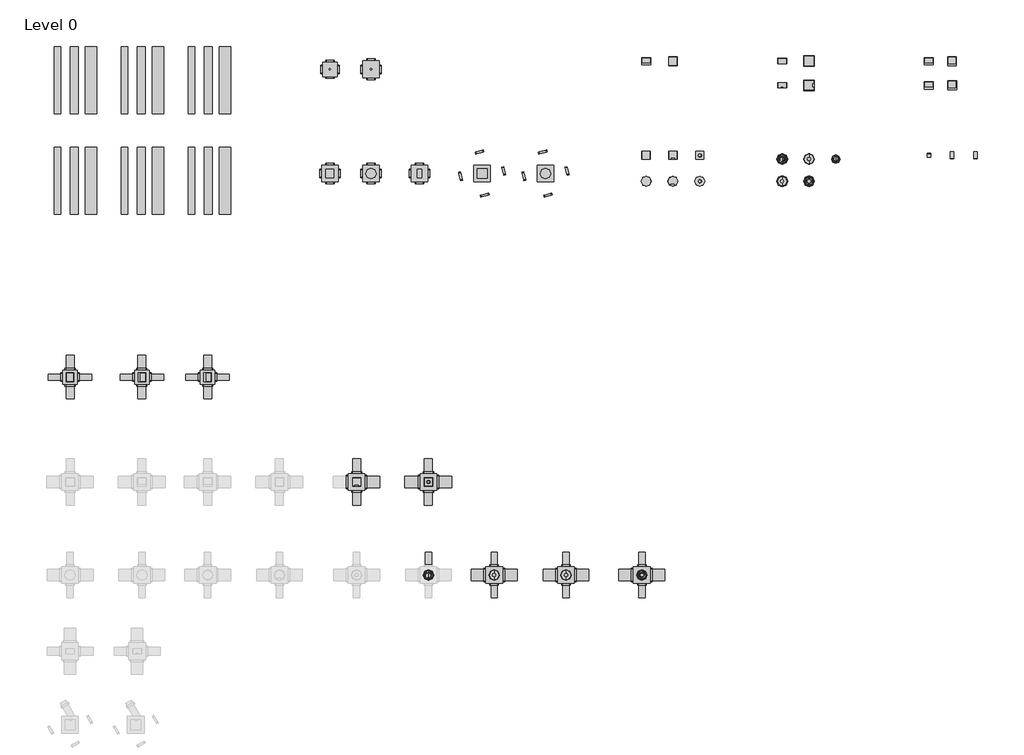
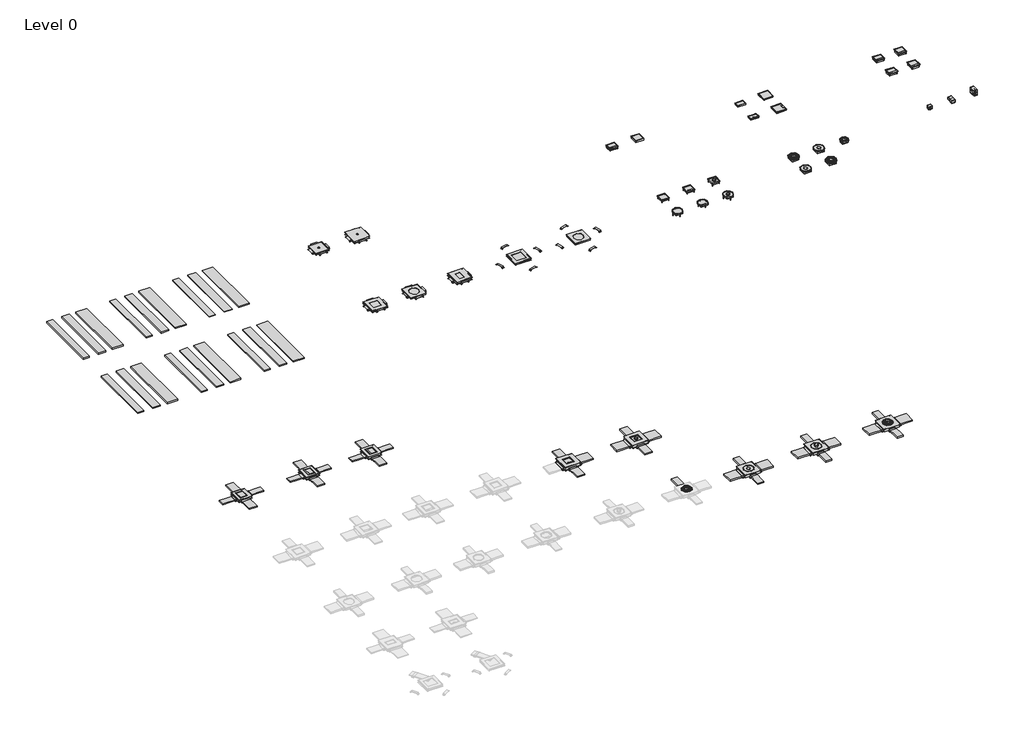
# One storey, part 2 of 2: 50 cable carrier segments, 34 proxies, 15 cable carrier fittings.
"""IFC4 building model written with IfcOpenShell, lengths in millimetres."""

from ifc_helpers import new_model, si_unit, frame, origin, place, context, project, spatial, polyline, outline, extrude, transform, mapped, element, save
from components import electrical_fixtures_1398e5e1, electrical_fixtures_dd5e6c87, electrical_fixtures_dd45cec8, electrical_fixtures_62458b07, electrical_fixtures_8427cab8, electrical_fixtures_e29cb0aa, electrical_fixtures_c710c140, electrical_fixtures_057aeb0d, electrical_fixtures_bc096a6a, electrical_fixtures_bc675c06, electrical_fixtures_8ed366d0, color_deep_black_fa90bbad, color_deep_black_3e0b7094, color_deep_black_f01a6ed9, color_deep_black_c4cdae59, color_deep_black_919f03ab, color_deep_black_c19cb628, color_deep_black_09ea9520, color_iron_grey_b0ae90e2, color_iron_grey_872dce2f, stainless_steel_cassette_q12_bl_outer_height_28mm_38aa1d54, stainless_steel_cassette_q12_le_outer_height_28mm_4387def9, stainless_steel_cassette_q12_tm_outer_height_28mm_6e70061e, stainless_steel_cassette_r12_bl_outer_height_28mm_04f2a1df, stainless_steel_cassette_r12_le_outer_height_28mm_2c233eef, stainless_steel_cassette_r12_tm_outer_height_28mm_5556ff63, cable_carrier_fitting_5f74ec3e, cable_carrier_fitting_95a8737b, cable_carrier_fitting_8ec82d7f, cable_carrier_fitting_5dca8683, universal_junction_box_with_bottom_plate_size_2_fdcef50c, universal_junction_box_with_bottom_plate_size_2_2fa8826b, universal_junction_box_with_bottom_plate_size_2_3eebd924, universal_junction_box_with_bottom_plate_size_2_4473feed, universal_junction_box_with_bottom_plate_size_3_bfdb4a76, universal_junction_box_with_bottom_plate_size_3_fc0b7f47, universal_junction_box_with_bottom_plate_size_3_6bbe9316, universal_junction_box_with_sheet_metal_casing_size_3_51affc23

model = new_model("IFC4")

# Units and contexts
model_context = context("Model", 3, world=origin())
ifc_project = project(units=[si_unit("LENGTHUNIT", "METRE", prefix="MILLI")], contexts=[model_context])

# Site, building, storey
site = spatial("IfcSite", under=ifc_project)
building = spatial("IfcBuilding", under=site)
storey = spatial("IfcBuildingStorey", under=building, Name="Level 0", Elevation=0.0)

# Proxies
placement = place(None, origin())
electrical_fixtures_shape = electrical_fixtures_1398e5e1(model_context)
element("IfcBuildingElementProxy", 1, Name="Electrical_Installation_Hager_VE-EE_VANR_3mm_Service-unit-for-wet-cleaned-floors-with-tube-cable-outlete-made-of-polyamide : Service unit R12 w set HB wet PA-T Al 3mm", ObjectType="Electrical_Installation_Hager_VE-EE_VANR_3mm_Service-unit-for-wet-cleaned-floors-with-tube-cable-outlete-made-of-polyamide : Service unit R12 w set HB wet PA-T Al 3mm", at=placement, inside=storey, context=model_context, shape_type="MappedRepresentation", body=[
    mapped(electrical_fixtures_shape, transform((6337.4796232, -4575.9376679, 74.0), x_axis=(1.0, 0.0, 0.0), y_axis=(0.0, 1.0, 0.0), z_axis=(0.0, 0.0, 1.0))),
])
electrical_fixtures_2_shape = electrical_fixtures_dd5e6c87(model_context)
element("IfcBuildingElementProxy", 2, Name="Electrical_Installation_Hager_VE-EE_VANR-Service-unit-for-wet-cleaned-floors-with-tube-cable-outlete-made-of-polyamide : Service unit R12 w set HB wet PA-Tub Al R", ObjectType="Electrical_Installation_Hager_VE-EE_VANR-Service-unit-for-wet-cleaned-floors-with-tube-cable-outlete-made-of-polyamide : Service unit R12 w set HB wet PA-Tub Al R", at=placement, inside=storey, context=model_context, shape_type="MappedRepresentation", body=[
    mapped(electrical_fixtures_2_shape, transform((8597.4796232, -4575.9376679, 74.0), x_axis=(1.0, 0.0, 0.0), y_axis=(0.0, 1.0, 0.0), z_axis=(0.0, 0.0, 1.0))),
])
electrical_fixtures_3_shape = electrical_fixtures_dd45cec8(model_context)
element("IfcBuildingElementProxy", 3, Name="Electrical_Installation_Hager_VE-EE_Pedestal-box-8 : GB pedestal box 8 inst. fields iron gray", ObjectType="Electrical_Installation_Hager_VE-EE_Pedestal-box-8 : GB pedestal box 8 inst. fields iron gray", at=placement, inside=storey, context=model_context, shape_type="MappedRepresentation", body=[
    mapped(electrical_fixtures_3_shape, transform((18546.8780036, 7933.6165958, 0.0), x_axis=(1.0, 0.0, 0.0), y_axis=(0.0, 1.0, 0.0), z_axis=(0.0, 0.0, 1.0))),
])
electrical_fixtures_4_shape = electrical_fixtures_62458b07(model_context)
element("IfcBuildingElementProxy", 4, Name="Electrical_Installation_Hager_VE-EE_Service-unit-VE09-made-of-stainless-steel : Electrical_Installation_Hager_VE-EE_Service-unit-VE09-made-of-stainless-steel", ObjectType="Electrical_Installation_Hager_VE-EE_Service-unit-VE09-made-of-stainless-steel : Electrical_Installation_Hager_VE-EE_Service-unit-VE09-made-of-stainless-steel", at=placement, inside=storey, context=model_context, shape_type="MappedRepresentation", body=[
    mapped(electrical_fixtures_4_shape, transform((17153.0835072, 10020.8738117, 0.0), x_axis=(1.0, 0.0, 0.0), y_axis=(0.0, 1.0, 0.0), z_axis=(0.0, 0.0, 1.0))),
])
electrical_fixtures_5_shape = electrical_fixtures_8427cab8(model_context)
element("IfcBuildingElementProxy", 5, Name="Electrical_Installation_Hager_VE-EE_Service-unit-VQ12-made-of-stainless-steel : Electrical_Installation_Hager_VE-EE_Service-unit-VQ12-made-of-stainless-steel", ObjectType="Electrical_Installation_Hager_VE-EE_Service-unit-VQ12-made-of-stainless-steel : Electrical_Installation_Hager_VE-EE_Service-unit-VQ12-made-of-stainless-steel", at=placement, inside=storey, context=model_context, shape_type="MappedRepresentation", body=[
    mapped(electrical_fixtures_5_shape, transform((17844.8100497, 10020.8738117, 0.0), x_axis=(1.0, 0.0, 0.0), y_axis=(0.0, 1.0, 0.0), z_axis=(0.0, 0.0, 1.0))),
])
electrical_fixtures_6_shape = electrical_fixtures_e29cb0aa(model_context)
element("IfcBuildingElementProxy", 6, Name="Electrical_Installation_Hager_VE-EE_VANR_3mm_Service-unit-for-wet-cleaned-floors-for-the-installation-tube-cable-outlet-made-of-aluminium : Service unit R12 w set HB wet Al-Tub 3mm", ObjectType="Electrical_Installation_Hager_VE-EE_VANR_3mm_Service-unit-for-wet-cleaned-floors-for-the-installation-tube-cable-outlet-made-of-aluminium : Service unit R12 w set HB wet Al-Tub 3mm", at=placement, inside=storey, context=model_context, shape_type="MappedRepresentation", body=[
    mapped(electrical_fixtures_6_shape, transform((4197.4796232, -4575.9376679, 74.0), x_axis=(1.0, 0.0, 0.0), y_axis=(0.0, 1.0, 0.0), z_axis=(0.0, 0.0, 1.0))),
])
element("IfcBuildingElementProxy", 7, Name="Electrical_Installation_Hager_VE-EE_VANR_3mm_Service-unit-for-wet-cleaned-floors-for-the-installation-tube-cable-outlet-made-of-aluminium : Service unit R12 w set HB wet Al-Tub 3mm", ObjectType="Electrical_Installation_Hager_VE-EE_VANR_3mm_Service-unit-for-wet-cleaned-floors-for-the-installation-tube-cable-outlet-made-of-aluminium : Service unit R12 w set HB wet Al-Tub 3mm", at=placement, inside=storey, context=model_context, shape_type="MappedRepresentation", body=[
    mapped(electrical_fixtures_6_shape, transform((12780.7945288, 7160.4699345, 0.0), x_axis=(1.0, 0.0, 0.0), y_axis=(0.0, 1.0, 0.0), z_axis=(0.0, 0.0, 1.0))),
])
element("IfcBuildingElementProxy", 8, Name="Electrical_Installation_Hager_VE-EE_VANR_3mm_Service-unit-for-wet-cleaned-floors-with-tube-cable-outlete-made-of-polyamide : Service unit R12 w set HB wet PA-T Al 3mm", ObjectType="Electrical_Installation_Hager_VE-EE_VANR_3mm_Service-unit-for-wet-cleaned-floors-with-tube-cable-outlete-made-of-polyamide : Service unit R12 w set HB wet PA-T Al 3mm", at=placement, inside=storey, context=model_context, shape_type="MappedRepresentation", body=[
    mapped(electrical_fixtures_6_shape, transform((13580.7945288, 7823.1081778, 0.0), x_axis=(1.0, 0.0, 0.0), y_axis=(0.0, 1.0, 0.0), z_axis=(0.0, 0.0, 1.0))),
])
electrical_fixtures_7_shape = electrical_fixtures_c710c140(model_context)
element("IfcBuildingElementProxy", 9, Name="Electrical_Installation_Hager_VE-EE_VANR-Service-unit-for-wet-cleaned-floors-for-the-installation-of-tube-cable-outlets-made-of-aluminium : Service unit R12 w set HB wet Al-Tub R deep black", ObjectType="Electrical_Installation_Hager_VE-EE_VANR-Service-unit-for-wet-cleaned-floors-for-the-installation-of-tube-cable-outlets-made-of-aluminium : Service unit R12 w set HB wet Al-Tub R deep black", at=placement, inside=storey, context=model_context, shape_type="MappedRepresentation", body=[
    mapped(electrical_fixtures_7_shape, transform((14380.7945288, 7823.1081778, 0.0), x_axis=(1.0, 0.0, 0.0), y_axis=(0.0, 1.0, 0.0), z_axis=(0.0, 0.0, 1.0))),
])
electrical_fixtures_8_shape = electrical_fixtures_057aeb0d(model_context)
element("IfcBuildingElementProxy", 10, Name="Electrical_Installation_Hager_VE-EE_VANR-Service-unit-for-wet-cleaned-floors-for-the-installation-tube-cable-outlet-made-of-aluminium : Service unit R12 w set HB wet Al-Tub R", ObjectType="Electrical_Installation_Hager_VE-EE_VANR-Service-unit-for-wet-cleaned-floors-for-the-installation-tube-cable-outlet-made-of-aluminium : Service unit R12 w set HB wet Al-Tub R", at=placement, inside=storey, context=model_context, shape_type="MappedRepresentation", body=[
    mapped(electrical_fixtures_8_shape, transform((12780.7945288, 7823.1081778, 0.0), x_axis=(1.0, 0.0, 0.0), y_axis=(0.0, 1.0, 0.0), z_axis=(0.0, 0.0, 1.0))),
])
element("IfcBuildingElementProxy", 11, Name="Electrical_Installation_Hager_VE-EE_VANR-Service-unit-for-wet-cleaned-floors-for-the-installation-tube-cable-outlet-made-of-aluminium : Service unit R12 w set HB wet Al-Tub R", ObjectType="Electrical_Installation_Hager_VE-EE_VANR-Service-unit-for-wet-cleaned-floors-for-the-installation-tube-cable-outlet-made-of-aluminium : Service unit R12 w set HB wet Al-Tub R", at=placement, inside=storey, context=model_context, shape_type="MappedRepresentation", body=[
    mapped(electrical_fixtures_8_shape, transform((2237.4796232, -4575.9376679, 74.0), x_axis=(1.0, 0.0, 0.0), y_axis=(0.0, 1.0, 0.0), z_axis=(0.0, 0.0, 1.0))),
])
electrical_fixtures_9_shape = electrical_fixtures_bc096a6a(model_context)
element("IfcBuildingElementProxy", 12, Name="Electrical_Installation_Hager_VE-EE_VANR-Service-unit-for-wet-cleaned-floors-with-tube-cable-outlete-made-of-polyamide : Service unit R12 w set HB wet PA-Tub Al R", ObjectType="Electrical_Installation_Hager_VE-EE_VANR-Service-unit-for-wet-cleaned-floors-with-tube-cable-outlete-made-of-polyamide : Service unit R12 w set HB wet PA-Tub Al R", at=placement, inside=storey, context=model_context, shape_type="MappedRepresentation", body=[
    mapped(electrical_fixtures_9_shape, transform((13580.7945288, 7160.4699345, 0.0), x_axis=(1.0, 0.0, 0.0), y_axis=(0.0, 1.0, 0.0), z_axis=(0.0, 0.0, 1.0))),
])
electrical_fixtures_10_shape = electrical_fixtures_bc675c06(model_context)
element("IfcBuildingElementProxy", 13, Name="Electrical_Installation_Hager_VE-EE_Pedestal-box-2 : GB pedestal box 2 inst. fields iron gray", ObjectType="Electrical_Installation_Hager_VE-EE_Pedestal-box-2 : GB pedestal box 2 inst. fields iron gray", at=placement, inside=storey, context=model_context, shape_type="MappedRepresentation", body=[
    mapped(electrical_fixtures_10_shape, transform((17153.0835072, 7933.6165958, 0.0), x_axis=(1.0, 0.0, 0.0), y_axis=(0.0, 1.0, 0.0), z_axis=(0.0, 0.0, 1.0))),
])
electrical_fixtures_11_shape = electrical_fixtures_8ed366d0(model_context)
element("IfcBuildingElementProxy", 14, Name="Electrical_Installation_Hager_VE-EE_Pedestal-box-4 : GB pedestal box 4 inst. fields iron gray", ObjectType="Electrical_Installation_Hager_VE-EE_Pedestal-box-4 : GB pedestal box 4 inst. fields iron gray", at=placement, inside=storey, context=model_context, shape_type="MappedRepresentation", body=[
    mapped(electrical_fixtures_11_shape, transform((17844.8100497, 7933.6165958, 0.0), x_axis=(1.0, 0.0, 0.0), y_axis=(0.0, 1.0, 0.0), z_axis=(0.0, 0.0, 1.0))),
])
element("IfcBuildingElementProxy", 15, Name="Electrical_Installation_Hager_VE-EE_Service-unit-VE09-made-of-stainless-steel : Electrical_Installation_Hager_VE-EE_Service-unit-VE09-made-of-stainless-steel", ObjectType="Electrical_Installation_Hager_VE-EE_Service-unit-VE09-made-of-stainless-steel : Electrical_Installation_Hager_VE-EE_Service-unit-VE09-made-of-stainless-steel", at=placement, inside=storey, context=model_context, shape_type="MappedRepresentation", body=[
    mapped(electrical_fixtures_4_shape, transform((-4342.5203768, 1319.6816929, 78.0), x_axis=(0.0, -1.0, 0.0), y_axis=(1.0, 0.0, 0.0), z_axis=(0.0, 0.0, 1.0))),
])
color_deep_black_shape = color_deep_black_fa90bbad(model_context)
element("IfcBuildingElementProxy", 16, Name="Electrical_Installation_Hager_VE-EE_Service-Unit-VQ12 : Color Deep Black", ObjectType="Electrical_Installation_Hager_VE-EE_Service-Unit-VQ12 : Color Deep Black", at=placement, inside=storey, context=model_context, shape_type="MappedRepresentation", body=[
    mapped(color_deep_black_shape, transform((17844.8100497, 10739.4319731, 0.0), x_axis=(1.0, 0.0, 0.0), y_axis=(0.0, 1.0, 0.0), z_axis=(0.0, 0.0, 1.0))),
])
color_deep_black_2_shape = color_deep_black_3e0b7094(model_context)
element("IfcBuildingElementProxy", 17, Name="Electrical_Installation_Hager_VE-EE_Cover-BDQ08 : Color Deep Black", ObjectType="Electrical_Installation_Hager_VE-EE_Cover-BDQ08 : Color Deep Black", at=placement, inside=storey, context=model_context, shape_type="MappedRepresentation", body=[
    mapped(color_deep_black_2_shape, transform((13580.7945288, 10739.4319731, 0.0), x_axis=(1.0, 0.0, 0.0), y_axis=(0.0, 1.0, 0.0), z_axis=(0.0, 0.0, 1.0))),
])
color_deep_black_3_shape = color_deep_black_f01a6ed9(model_context)
element("IfcBuildingElementProxy", 18, Name="Electrical_Installation_Hager_VE-EE_Cover-KDQ08 : Color Deep Black", ObjectType="Electrical_Installation_Hager_VE-EE_Cover-KDQ08 : Color Deep Black", at=placement, inside=storey, context=model_context, shape_type="MappedRepresentation", body=[
    mapped(color_deep_black_3_shape, transform((13580.7945288, 10020.8738117, 0.0), x_axis=(1.0, 0.0, 0.0), y_axis=(0.0, 1.0, 0.0), z_axis=(0.0, 0.0, 1.0))),
])
color_deep_black_4_shape = color_deep_black_c4cdae59(model_context)
element("IfcBuildingElementProxy", 19, Name="Electrical_Installation_Hager_VE-EE_Cover-BDE04 : Color Deep Black", ObjectType="Electrical_Installation_Hager_VE-EE_Cover-BDE04 : Color Deep Black", at=placement, inside=storey, context=model_context, shape_type="MappedRepresentation", body=[
    mapped(color_deep_black_4_shape, transform((12780.7945288, 10739.4319731, 0.0), x_axis=(1.0, 0.0, 0.0), y_axis=(0.0, 1.0, 0.0), z_axis=(0.0, 0.0, 1.0))),
])
color_deep_black_5_shape = color_deep_black_919f03ab(model_context)
element("IfcBuildingElementProxy", 20, Name="Electrical_Installation_Hager_VE-EE_Cover-KDE04 : Color Deep Black", ObjectType="Electrical_Installation_Hager_VE-EE_Cover-KDE04 : Color Deep Black", at=placement, inside=storey, context=model_context, shape_type="MappedRepresentation", body=[
    mapped(color_deep_black_5_shape, transform((12780.7945288, 10020.8738117, 0.0), x_axis=(1.0, 0.0, 0.0), y_axis=(0.0, 1.0, 0.0), z_axis=(0.0, 0.0, 1.0))),
])
color_deep_black_6_shape = color_deep_black_c19cb628(model_context)
element("IfcBuildingElementProxy", 21, Name="Electrical_Installation_Hager_VE-EE_Cover-VDQ12 : Color Deep Black", ObjectType="Electrical_Installation_Hager_VE-EE_Cover-VDQ12 : Color Deep Black", at=placement, inside=storey, context=model_context, shape_type="MappedRepresentation", body=[
    mapped(color_deep_black_6_shape, transform((9524.6249215, 10739.4319731, 0.0), x_axis=(1.0, 0.0, 0.0), y_axis=(0.0, 1.0, 0.0), z_axis=(0.0, 0.0, 1.0))),
])
color_deep_black_7_shape = color_deep_black_09ea9520(model_context)
element("IfcBuildingElementProxy", 22, Name="Electrical_Installation_Hager_VE-EE_Service-unit-VE09 : Color Deep Black", ObjectType="Electrical_Installation_Hager_VE-EE_Service-unit-VE09 : Color Deep Black", at=placement, inside=storey, context=model_context, shape_type="MappedRepresentation", body=[
    mapped(color_deep_black_7_shape, transform((8724.6249215, 10739.4319731, 0.0), x_axis=(1.0, 0.0, 0.0), y_axis=(0.0, 1.0, 0.0), z_axis=(0.0, 0.0, 1.0))),
])
color_iron_grey_shape = color_iron_grey_b0ae90e2(model_context)
element("IfcBuildingElementProxy", 23, Name="Electrical_Installation_Hager_VE-EE_Service-unit-VE09 : Color Iron Grey", ObjectType="Electrical_Installation_Hager_VE-EE_Service-unit-VE09 : Color Iron Grey", at=placement, inside=storey, context=model_context, shape_type="MappedRepresentation", body=[
    mapped(color_iron_grey_shape, transform((-6302.5203768, 1319.6816929, 71.0), x_axis=(0.0, -1.0, 0.0), y_axis=(1.0, 0.0, 0.0), z_axis=(0.0, 0.0, 1.0))),
])
color_iron_grey_2_shape = color_iron_grey_872dce2f(model_context)
element("IfcBuildingElementProxy", 24, Name="Electrical_Installation_Hager_VE-EE_Cover-VDE09 : Color Iron Grey", ObjectType="Electrical_Installation_Hager_VE-EE_Cover-VDE09 : Color Iron Grey", at=placement, inside=storey, context=model_context, shape_type="MappedRepresentation", body=[
    mapped(color_iron_grey_2_shape, transform((8724.6249215, 10739.4319731, 0.0), x_axis=(1.0, 0.0, 0.0), y_axis=(0.0, 1.0, 0.0), z_axis=(0.0, 0.0, 1.0))),
])
element("IfcBuildingElementProxy", 25, Name="Electrical_Installation_Hager_VE-EE_Cover-VDE09 : Color Iron Grey", ObjectType="Electrical_Installation_Hager_VE-EE_Cover-VDE09 : Color Iron Grey", at=placement, inside=storey, context=model_context, shape_type="MappedRepresentation", body=[
    mapped(color_iron_grey_2_shape, transform((-8442.5203768, 1319.6816929, 54.0), x_axis=(0.0, -1.0, 0.0), y_axis=(1.0, 0.0, 0.0), z_axis=(0.0, 0.0, 1.0))),
])
element("IfcBuildingElementProxy", 26, Name="Electrical_Installation_Hager_VE-EE_Service-unit-VE09 : Color Iron Grey", ObjectType="Electrical_Installation_Hager_VE-EE_Service-unit-VE09 : Color Iron Grey", at=placement, inside=storey, context=model_context, shape_type="MappedRepresentation", body=[
    mapped(color_deep_black_7_shape, transform((17153.0835072, 10739.4319731, 0.0), x_axis=(1.0, 0.0, 0.0), y_axis=(0.0, 1.0, 0.0), z_axis=(0.0, 0.0, 1.0))),
])
stainless_steel_cassette_q12_bl_outer_height_28mm_shape = stainless_steel_cassette_q12_bl_outer_height_28mm_38aa1d54(model_context)
element("IfcBuildingElementProxy", 27, Name="Electrical_Installation_Hager_VE-EE_EKQ-Height-adjustable-stainless-steel-cassette-blank-square-for-damp-cleaned-floors : Stainless-steel cassette Q12 BL outer height 28mm", ObjectType="Electrical_Installation_Hager_VE-EE_EKQ-Height-adjustable-stainless-steel-cassette-blank-square-for-damp-cleaned-floors : Stainless-steel cassette Q12 BL outer height 28mm", at=placement, inside=storey, context=model_context, shape_type="MappedRepresentation", body=[
    mapped(stainless_steel_cassette_q12_bl_outer_height_28mm_shape, transform((8724.6249215, 7933.6165958, 0.0), x_axis=(1.0, 0.0, 0.0), y_axis=(0.0, 1.0, 0.0), z_axis=(0.0, 0.0, 1.0))),
])
stainless_steel_cassette_q12_le_outer_height_28mm_shape = stainless_steel_cassette_q12_le_outer_height_28mm_4387def9(model_context)
element("IfcBuildingElementProxy", 28, Name="Electrical_Installation_Hager_VE-EE_EKQ-Height-adjustable-stainless-steel-cassette-with-cable-outlet-square-for-dry-cleaned-floors : Stainless-steel cassette Q12 LE outer height 28mm", ObjectType="Electrical_Installation_Hager_VE-EE_EKQ-Height-adjustable-stainless-steel-cassette-with-cable-outlet-square-for-dry-cleaned-floors : Stainless-steel cassette Q12 LE outer height 28mm", at=placement, inside=storey, context=model_context, shape_type="MappedRepresentation", body=[
    mapped(stainless_steel_cassette_q12_le_outer_height_28mm_shape, transform((9524.6249215, 7933.6165958, 0.0), x_axis=(1.0, 0.0, 0.0), y_axis=(0.0, 1.0, 0.0), z_axis=(0.0, 0.0, 1.0))),
])
element("IfcBuildingElementProxy", 29, Name="Electrical_Installation_Hager_VE-EE_EKQ-Height-adjustable-stainless-steel-cassette-with-cable-outlet-square-for-dry-cleaned-floors : Stainless-steel cassette Q12 LE outer height 28mm", ObjectType="Electrical_Installation_Hager_VE-EE_EKQ-Height-adjustable-stainless-steel-cassette-with-cable-outlet-square-for-dry-cleaned-floors : Stainless-steel cassette Q12 LE outer height 28mm", at=placement, inside=storey, context=model_context, shape_type="MappedRepresentation", body=[
    mapped(stainless_steel_cassette_q12_le_outer_height_28mm_shape, transform((97.4796232, -1802.7596237, 89.0), x_axis=(1.0, 0.0, 0.0), y_axis=(0.0, 1.0, 0.0), z_axis=(0.0, 0.0, 1.0))),
])
stainless_steel_cassette_q12_tm_outer_height_28mm_shape = stainless_steel_cassette_q12_tm_outer_height_28mm_6e70061e(model_context)
element("IfcBuildingElementProxy", 30, Name="Electrical_Installation_Hager_VE-EE_EKQ-Height-adjustable-stainless-steel-cassette-with-tube-mounting-set-square-for-damp-cleaned-floors : Stainless-steel cassette Q12 TM outer height 28mm", ObjectType="Electrical_Installation_Hager_VE-EE_EKQ-Height-adjustable-stainless-steel-cassette-with-tube-mounting-set-square-for-damp-cleaned-floors : Stainless-steel cassette Q12 TM outer height 28mm", at=placement, inside=storey, context=model_context, shape_type="MappedRepresentation", body=[
    mapped(stainless_steel_cassette_q12_tm_outer_height_28mm_shape, transform((10324.6249215, 7933.6165958, 0.0), x_axis=(1.0, 0.0, 0.0), y_axis=(0.0, 1.0, 0.0), z_axis=(0.0, 0.0, 1.0))),
])
element("IfcBuildingElementProxy", 31, Name="Electrical_Installation_Hager_VE-EE_EKQ-Height-adjustable-stainless-steel-cassette-with-tube-mounting-set-square-for-damp-cleaned-floors : Stainless-steel cassette Q12 TM outer height 28mm", ObjectType="Electrical_Installation_Hager_VE-EE_EKQ-Height-adjustable-stainless-steel-cassette-with-tube-mounting-set-square-for-damp-cleaned-floors : Stainless-steel cassette Q12 TM outer height 28mm", at=placement, inside=storey, context=model_context, shape_type="MappedRepresentation", body=[
    mapped(stainless_steel_cassette_q12_tm_outer_height_28mm_shape, transform((2237.4796232, -1802.7596237, 89.0), x_axis=(1.0, 0.0, 0.0), y_axis=(0.0, 1.0, 0.0), z_axis=(0.0, 0.0, 1.0))),
])
stainless_steel_cassette_r12_bl_outer_height_28mm_shape = stainless_steel_cassette_r12_bl_outer_height_28mm_04f2a1df(model_context)
element("IfcBuildingElementProxy", 32, Name="Electrical_Installation_Hager_VE-EE_EKR-Height-adjustable-stainless-steel-cassette-blank-round-for-damp-cleaned-floors : Stainless-steel cassette R12 BL outer height 28mm", ObjectType="Electrical_Installation_Hager_VE-EE_EKR-Height-adjustable-stainless-steel-cassette-blank-round-for-damp-cleaned-floors : Stainless-steel cassette R12 BL outer height 28mm", at=placement, inside=storey, context=model_context, shape_type="MappedRepresentation", body=[
    mapped(stainless_steel_cassette_r12_bl_outer_height_28mm_shape, transform((8724.6249215, 7160.4699345, 0.0), x_axis=(1.0, 0.0, 0.0), y_axis=(0.0, 1.0, 0.0), z_axis=(0.0, 0.0, 1.0))),
])
stainless_steel_cassette_r12_le_outer_height_28mm_shape = stainless_steel_cassette_r12_le_outer_height_28mm_2c233eef(model_context)
element("IfcBuildingElementProxy", 33, Name="Electrical_Installation_Hager_VE-EE_EKR-Height-adjustable-stainless-steel-cassette-with-square-cable-outlet-for-dry-cleaned-floors : Stainless-steel cassette R12 LE outer height 28mm", ObjectType="Electrical_Installation_Hager_VE-EE_EKR-Height-adjustable-stainless-steel-cassette-with-square-cable-outlet-for-dry-cleaned-floors : Stainless-steel cassette R12 LE outer height 28mm", at=placement, inside=storey, context=model_context, shape_type="MappedRepresentation", body=[
    mapped(stainless_steel_cassette_r12_le_outer_height_28mm_shape, transform((9524.6249215, 7160.4699345, 0.0), x_axis=(1.0, 0.0, 0.0), y_axis=(0.0, 1.0, 0.0), z_axis=(0.0, 0.0, 1.0))),
])
stainless_steel_cassette_r12_tm_outer_height_28mm_shape = stainless_steel_cassette_r12_tm_outer_height_28mm_5556ff63(model_context)
element("IfcBuildingElementProxy", 34, Name="Electrical_Installation_Hager_VE-EE_EKR-Height-adjustable-stainless-steel-cassette-with-tube-mounting-set-round-for-damp-cleaned-floors : Stainless-steel cassette R12 TM outer height 28mm", ObjectType="Electrical_Installation_Hager_VE-EE_EKR-Height-adjustable-stainless-steel-cassette-with-tube-mounting-set-round-for-damp-cleaned-floors : Stainless-steel cassette R12 TM outer height 28mm", at=placement, inside=storey, context=model_context, shape_type="MappedRepresentation", body=[
    mapped(stainless_steel_cassette_r12_tm_outer_height_28mm_shape, transform((10324.6249215, 7160.4699345, 0.0), x_axis=(1.0, 0.0, 0.0), y_axis=(0.0, 1.0, 0.0), z_axis=(0.0, 0.0, 1.0))),
])

# Cable carrier fittings
cable_carrier_fitting_shape = cable_carrier_fitting_5f74ec3e(model_context)
element("IfcCableCarrierFitting", 35, ObjectType="Electrical-Installations_Hager_Universal-Junction-Box-With-Retaining-Tabs-Size-2 : Universal junction box with retaining tabs size 2", at=placement, inside=storey, context=model_context, shape_type="MappedRepresentation", body=[
    mapped(cable_carrier_fitting_shape, transform((524.4049911, 10496.4192014, 0.0), x_axis=(1.0, 0.0, 0.0), y_axis=(0.0, 1.0, 0.0), z_axis=(0.0, 0.0, 1.0))),
])
cable_carrier_fitting_2_shape = cable_carrier_fitting_95a8737b(model_context)
element("IfcCableCarrierFitting", 36, ObjectType="Electrical-Installations_Hager_Universal-Junction-Box-With-Retaining-Tabs-Size-3 : Universal junction box with retaining tabs size 3", at=placement, inside=storey, context=model_context, shape_type="MappedRepresentation", body=[
    mapped(cable_carrier_fitting_2_shape, transform((524.4049911, 7389.7736938, 0.0), x_axis=(1.0, 0.0, 0.0), y_axis=(0.0, 1.0, 0.0), z_axis=(0.0, 0.0, 1.0))),
])
cable_carrier_fitting_3_shape = cable_carrier_fitting_8ec82d7f(model_context)
element("IfcCableCarrierFitting", 37, ObjectType="Electrical-Installations_Hager_Universal-Junction-Box-With-Retaining-Tabs-Size-3 : Universal junction box with retaining tabs size 3", at=placement, inside=storey, context=model_context, shape_type="MappedRepresentation", body=[
    mapped(cable_carrier_fitting_3_shape, transform((4197.4796232, -4575.9376679, 0.0), x_axis=(1.0, 0.0, 0.0), y_axis=(0.0, 1.0, 0.0), z_axis=(0.0, 0.0, 1.0))),
])
element("IfcCableCarrierFitting", 38, ObjectType="Electrical-Installations_Hager_Universal-Junction-Box-With-Retaining-Tabs-Size-3 : Universal junction box with retaining tabs size 3", at=placement, inside=storey, context=model_context, shape_type="MappedRepresentation", body=[
    mapped(cable_carrier_fitting_3_shape, transform((6337.4796232, -4575.9376679, 0.0), x_axis=(1.0, 0.0, 0.0), y_axis=(0.0, 1.0, 0.0), z_axis=(0.0, 0.0, 1.0))),
])
element("IfcCableCarrierFitting", 39, ObjectType="Electrical-Installations_Hager_Universal-Junction-Box-With-Retaining-Tabs-Size-3 : Universal junction box with retaining tabs size 3", at=placement, inside=storey, context=model_context, shape_type="MappedRepresentation", body=[
    mapped(cable_carrier_fitting_3_shape, transform((8597.4796232, -4575.9376679, 0.0), x_axis=(1.0, 0.0, 0.0), y_axis=(0.0, 1.0, 0.0), z_axis=(0.0, 0.0, 1.0))),
])
cable_carrier_fitting_4_shape = cable_carrier_fitting_5dca8683(model_context)
element("IfcCableCarrierFitting", 40, ObjectType="Electrical-Installations_Hager_Universal-Junction-Box-With-Retaining-Tabs-Size-3-Angled : Universal junction box with retaining tabs size 3", at=placement, inside=storey, context=model_context, shape_type="MappedRepresentation", body=[
    mapped(cable_carrier_fitting_4_shape, transform((5724.0415824, 7389.7736938, 0.0), x_axis=(1.0, 0.0, 0.0), y_axis=(0.0, 1.0, 0.0), z_axis=(0.0, 0.0, 1.0))),
])
universal_junction_box_with_bottom_plate_size_2_shape = universal_junction_box_with_bottom_plate_size_2_fdcef50c(model_context)
element("IfcCableCarrierFitting", 41, ObjectType="Electrical-Installations_Hager_Universal-Junction-Box-With-Bottom-Plate-Size-2 : Universal junction box with bottom plate size 2", at=placement, inside=storey, context=model_context, shape_type="MappedRepresentation", body=[
    mapped(universal_junction_box_with_bottom_plate_size_2_shape, transform((-699.7693879, 10496.4192014, 0.0), x_axis=(1.0, 0.0, 0.0), y_axis=(0.0, 1.0, 0.0), z_axis=(0.0, 0.0, 1.0))),
])
universal_junction_box_with_bottom_plate_size_2_2_shape = universal_junction_box_with_bottom_plate_size_2_2fa8826b(model_context)
element("IfcCableCarrierFitting", 42, ObjectType="Electrical-Installations_Hager_Universal-Junction-Box-With-Bottom-Plate-Size-2 : Universal junction box with bottom plate size 2", at=placement, inside=storey, context=model_context, shape_type="MappedRepresentation", body=[
    mapped(universal_junction_box_with_bottom_plate_size_2_2_shape, transform((-8442.5203768, 1319.6816929, 0.0), x_axis=(1.0, 0.0, 0.0), y_axis=(0.0, 1.0, 0.0), z_axis=(0.0, 0.0, 1.0))),
])
universal_junction_box_with_bottom_plate_size_2_3_shape = universal_junction_box_with_bottom_plate_size_2_3eebd924(model_context)
element("IfcCableCarrierFitting", 43, ObjectType="Electrical-Installations_Hager_Universal-Junction-Box-With-Bottom-Plate-Size-2 : Universal junction box with bottom plate size 2", at=placement, inside=storey, context=model_context, shape_type="MappedRepresentation", body=[
    mapped(universal_junction_box_with_bottom_plate_size_2_3_shape, transform((-6302.5203768, 1319.6816929, 0.0), x_axis=(1.0, 0.0, 0.0), y_axis=(0.0, 1.0, 0.0), z_axis=(0.0, 0.0, 1.0))),
])
universal_junction_box_with_bottom_plate_size_2_4_shape = universal_junction_box_with_bottom_plate_size_2_4473feed(model_context)
element("IfcCableCarrierFitting", 44, ObjectType="Electrical-Installations_Hager_Universal-Junction-Box-With-Bottom-Plate-Size-2 : Universal junction box with bottom plate size 2", at=placement, inside=storey, context=model_context, shape_type="MappedRepresentation", body=[
    mapped(universal_junction_box_with_bottom_plate_size_2_4_shape, transform((-4342.5203768, 1319.6816929, 0.0), x_axis=(1.0, 0.0, 0.0), y_axis=(0.0, 1.0, 0.0), z_axis=(0.0, 0.0, 1.0))),
])
universal_junction_box_with_bottom_plate_size_3_shape = universal_junction_box_with_bottom_plate_size_3_bfdb4a76(model_context)
element("IfcCableCarrierFitting", 45, ObjectType="Electrical-Installations_Hager_Universal-Junction-Box-With-Bottom-Plate-Size-3 : Universal junction box with bottom plate size 3", at=placement, inside=storey, context=model_context, shape_type="MappedRepresentation", body=[
    mapped(universal_junction_box_with_bottom_plate_size_3_shape, transform((-699.7693879, 7389.7736938, 0.0), x_axis=(1.0, 0.0, 0.0), y_axis=(0.0, 1.0, 0.0), z_axis=(0.0, 0.0, 1.0))),
])
universal_junction_box_with_bottom_plate_size_3_2_shape = universal_junction_box_with_bottom_plate_size_3_fc0b7f47(model_context)
element("IfcCableCarrierFitting", 46, ObjectType="Electrical-Installations_Hager_Universal-Junction-Box-With-Bottom-Plate-Size-3 : Universal junction box with bottom plate size 3", at=placement, inside=storey, context=model_context, shape_type="MappedRepresentation", body=[
    mapped(universal_junction_box_with_bottom_plate_size_3_2_shape, transform((97.4796232, -1802.7596237, 0.0), x_axis=(1.0, 0.0, 0.0), y_axis=(0.0, 1.0, 0.0), z_axis=(0.0, 0.0, 1.0))),
])
element("IfcCableCarrierFitting", 47, ObjectType="Electrical-Installations_Hager_Universal-Junction-Box-With-Bottom-Plate-Size-3 : Universal junction box with bottom plate size 3", at=placement, inside=storey, context=model_context, shape_type="MappedRepresentation", body=[
    mapped(universal_junction_box_with_bottom_plate_size_3_2_shape, transform((2237.4796232, -1802.7596237, 0.0), x_axis=(1.0, 0.0, 0.0), y_axis=(0.0, 1.0, 0.0), z_axis=(0.0, 0.0, 1.0))),
])
universal_junction_box_with_bottom_plate_size_3_3_shape = universal_junction_box_with_bottom_plate_size_3_6bbe9316(model_context)
element("IfcCableCarrierFitting", 48, ObjectType="Electrical-Installations_Hager_Universal-Junction-Box-With-Bottom-Plate-Size-3-Angled : Universal junction box with bottom plate size 3", at=placement, inside=storey, context=model_context, shape_type="MappedRepresentation", body=[
    mapped(universal_junction_box_with_bottom_plate_size_3_3_shape, transform((3838.5261466, 7389.7736938, 0.0), x_axis=(1.0, 0.0, 0.0), y_axis=(0.0, 1.0, 0.0), z_axis=(0.0, 0.0, 1.0))),
])
universal_junction_box_with_sheet_metal_casing_size_3_shape = universal_junction_box_with_sheet_metal_casing_size_3_51affc23(model_context)
element("IfcCableCarrierFitting", 49, ObjectType="Electrical-Installations_Hager_Universal-Junction-Box-With-Sheet-Metal-Casing-Size-3 : Universal junction box with sheet metal casing size 3", at=placement, inside=storey, context=model_context, shape_type="MappedRepresentation", body=[
    mapped(universal_junction_box_with_sheet_metal_casing_size_3_shape, transform((1972.0563213, 7389.7736938, 0.0), x_axis=(1.0, 0.0, 0.0), y_axis=(0.0, 1.0, 0.0), z_axis=(0.0, 0.0, 1.0))),
])

# Cable carrier segments
element("IfcCableCarrierSegment", 50, ObjectType="Electrical-Installations_Cable-Trays_Hager_Electraplan-Trunking-2-Compartments", at=placement, inside=storey, context=model_context, shape_type="SweptSolid", body=[
    extrude(outline(polyline([(-8727.5203768, 9175.4578507), (-8917.5203768, 9175.4578507), (-8917.5203768, 11175.4578507), (-8727.5203768, 11175.4578507), (-8727.5203768, 9175.4578507)])), frame((0.0, 0.0, -24.0), z_axis=(0.0, 0.0, 1.0), x_axis=(1.0, 0.0, 0.0)), (0.0, 0.0, 1.0), 48.0),
])
element("IfcCableCarrierSegment", 51, ObjectType="Electrical-Installations_Cable-Trays_Hager_Electraplan-Trunking-2-Compartments", at=placement, inside=storey, context=model_context, shape_type="SweptSolid", body=[
    extrude(outline(polyline([(-8202.5203768, 9175.4578507), (-8442.5203768, 9175.4578507), (-8442.5203768, 11175.4578507), (-8202.5203768, 11175.4578507), (-8202.5203768, 9175.4578507)])), frame((0.0, 0.0, -24.0), z_axis=(0.0, 0.0, 1.0), x_axis=(1.0, 0.0, 0.0)), (0.0, 0.0, 1.0), 48.0),
])
element("IfcCableCarrierSegment", 52, ObjectType="Electrical-Installations_Cable-Trays_Hager_Electraplan-Trunking-2-Compartments", at=placement, inside=storey, context=model_context, shape_type="SweptSolid", body=[
    extrude(outline(polyline([(-7652.5203768, 9175.4578507), (-7992.5203768, 9175.4578507), (-7992.5203768, 11175.4578507), (-7652.5203768, 11175.4578507), (-7652.5203768, 9175.4578507)])), frame((0.0, 0.0, -24.0), z_axis=(0.0, 0.0, 1.0), x_axis=(1.0, 0.0, 0.0)), (0.0, 0.0, 1.0), 48.0),
])
element("IfcCableCarrierSegment", 53, ObjectType="Electrical-Installations_Cable-Trays_Hager_Electraplan-Trunking-2-Compartments", at=placement, inside=storey, context=model_context, shape_type="SweptSolid", body=[
    extrude(outline(polyline([(-5652.5203768, 9175.4578507), (-5992.5203768, 9175.4578507), (-5992.5203768, 11175.4578507), (-5652.5203768, 11175.4578507), (-5652.5203768, 9175.4578507)])), frame((0.0, 0.0, -19.0), z_axis=(0.0, 0.0, 1.0), x_axis=(1.0, 0.0, 0.0)), (0.0, 0.0, 1.0), 38.0),
])
element("IfcCableCarrierSegment", 54, ObjectType="Electrical-Installations_Cable-Trays_Hager_Electraplan-Trunking-2-Compartments", at=placement, inside=storey, context=model_context, shape_type="SweptSolid", body=[
    extrude(outline(polyline([(-6442.5203768, 11175.4578507), (-6202.5203768, 11175.4578507), (-6202.5203768, 9175.4578507), (-6442.5203768, 9175.4578507), (-6442.5203768, 11175.4578507)])), frame((0.0, 0.0, -19.0), z_axis=(0.0, 0.0, 1.0), x_axis=(1.0, 0.0, 0.0)), (0.0, 0.0, 1.0), 38.0),
])
element("IfcCableCarrierSegment", 55, ObjectType="Electrical-Installations_Cable-Trays_Hager_Electraplan-Trunking-2-Compartments", at=placement, inside=storey, context=model_context, shape_type="SweptSolid", body=[
    extrude(outline(polyline([(-3652.5203768, 9175.4578507), (-3992.5203768, 9175.4578507), (-3992.5203768, 11175.4578507), (-3652.5203768, 11175.4578507), (-3652.5203768, 9175.4578507)])), frame((0.0, 0.0, -14.0), z_axis=(0.0, 0.0, 1.0), x_axis=(1.0, 0.0, 0.0)), (0.0, 0.0, 1.0), 28.0),
])
element("IfcCableCarrierSegment", 56, ObjectType="Electrical-Installations_Cable-Trays_Hager_Electraplan-Trunking-2-Compartments", at=placement, inside=storey, context=model_context, shape_type="SweptSolid", body=[
    extrude(outline(polyline([(-4442.5203768, 11175.4578507), (-4202.5203768, 11175.4578507), (-4202.5203768, 9175.4578507), (-4442.5203768, 9175.4578507), (-4442.5203768, 11175.4578507)])), frame((0.0, 0.0, -14.0), z_axis=(0.0, 0.0, 1.0), x_axis=(1.0, 0.0, 0.0)), (0.0, 0.0, 1.0), 28.0),
])
element("IfcCableCarrierSegment", 57, ObjectType="Electrical-Installations_Cable-Trays_Hager_Electraplan-Trunking-2-Compartments", at=placement, inside=storey, context=model_context, shape_type="SweptSolid", body=[
    extrude(outline(polyline([(-4917.5203768, 11175.4578507), (-4727.5203768, 11175.4578507), (-4727.5203768, 9175.4578507), (-4917.5203768, 9175.4578507), (-4917.5203768, 11175.4578507)])), frame((0.0, 0.0, -14.0), z_axis=(0.0, 0.0, 1.0), x_axis=(1.0, 0.0, 0.0)), (0.0, 0.0, 1.0), 28.0),
])
element("IfcCableCarrierSegment", 58, ObjectType="Electrical-Installations_Cable-Trays_Hager_Electraplan-Trunking-3-Compartments", at=placement, inside=storey, context=model_context, shape_type="SweptSolid", body=[
    extrude(outline(polyline([(-8727.5203768, 6175.4578507), (-8917.5203768, 6175.4578507), (-8917.5203768, 8175.4578507), (-8727.5203768, 8175.4578507), (-8727.5203768, 6175.4578507)])), frame((0.0, 0.0, -24.0), z_axis=(0.0, 0.0, 1.0), x_axis=(1.0, 0.0, 0.0)), (0.0, 0.0, 1.0), 48.0),
])
element("IfcCableCarrierSegment", 59, ObjectType="Electrical-Installations_Cable-Trays_Hager_Electraplan-Trunking-3-Compartments", at=placement, inside=storey, context=model_context, shape_type="SweptSolid", body=[
    extrude(outline(polyline([(-8202.5203768, 6175.4578507), (-8442.5203768, 6175.4578507), (-8442.5203768, 8175.4578507), (-8202.5203768, 8175.4578507), (-8202.5203768, 6175.4578507)])), frame((0.0, 0.0, -24.0), z_axis=(0.0, 0.0, 1.0), x_axis=(1.0, 0.0, 0.0)), (0.0, 0.0, 1.0), 48.0),
])
element("IfcCableCarrierSegment", 60, ObjectType="Electrical-Installations_Cable-Trays_Hager_Electraplan-Trunking-3-Compartments", at=placement, inside=storey, context=model_context, shape_type="SweptSolid", body=[
    extrude(outline(polyline([(-7652.5203768, 6175.4578507), (-7992.5203768, 6175.4578507), (-7992.5203768, 8175.4578507), (-7652.5203768, 8175.4578507), (-7652.5203768, 6175.4578507)])), frame((0.0, 0.0, -24.0), z_axis=(0.0, 0.0, 1.0), x_axis=(1.0, 0.0, 0.0)), (0.0, 0.0, 1.0), 48.0),
])
element("IfcCableCarrierSegment", 61, ObjectType="Electrical-Installations_Cable-Trays_Hager_Electraplan-Trunking-3-Compartments", at=placement, inside=storey, context=model_context, shape_type="SweptSolid", body=[
    extrude(outline(polyline([(-5652.5203768, 6175.4578507), (-5992.5203768, 6175.4578507), (-5992.5203768, 8175.4578507), (-5652.5203768, 8175.4578507), (-5652.5203768, 6175.4578507)])), frame((0.0, 0.0, -19.0), z_axis=(0.0, 0.0, 1.0), x_axis=(1.0, 0.0, 0.0)), (0.0, 0.0, 1.0), 38.0),
])
element("IfcCableCarrierSegment", 62, ObjectType="Electrical-Installations_Cable-Trays_Hager_Electraplan-Trunking-3-Compartments", at=placement, inside=storey, context=model_context, shape_type="SweptSolid", body=[
    extrude(outline(polyline([(-6442.5203768, 8175.4578507), (-6202.5203768, 8175.4578507), (-6202.5203768, 6175.4578507), (-6442.5203768, 6175.4578507), (-6442.5203768, 8175.4578507)])), frame((0.0, 0.0, -19.0), z_axis=(0.0, 0.0, 1.0), x_axis=(1.0, 0.0, 0.0)), (0.0, 0.0, 1.0), 38.0),
])
element("IfcCableCarrierSegment", 63, ObjectType="Electrical-Installations_Cable-Trays_Hager_Electraplan-Trunking-3-Compartments", at=placement, inside=storey, context=model_context, shape_type="SweptSolid", body=[
    extrude(outline(polyline([(-6917.5203768, 8175.4578507), (-6727.5203768, 8175.4578507), (-6727.5203768, 6175.4578507), (-6917.5203768, 6175.4578507), (-6917.5203768, 8175.4578507)])), frame((0.0, 0.0, -19.0), z_axis=(0.0, 0.0, 1.0), x_axis=(1.0, 0.0, 0.0)), (0.0, 0.0, 1.0), 38.0),
])
element("IfcCableCarrierSegment", 64, ObjectType="Electrical-Installations_Cable-Trays_Hager_Electraplan-Trunking-3-Compartments", at=placement, inside=storey, context=model_context, shape_type="SweptSolid", body=[
    extrude(outline(polyline([(-4442.5203768, 8175.4578507), (-4202.5203768, 8175.4578507), (-4202.5203768, 6175.4578507), (-4442.5203768, 6175.4578507), (-4442.5203768, 8175.4578507)])), frame((0.0, 0.0, -14.0), z_axis=(0.0, 0.0, 1.0), x_axis=(1.0, 0.0, 0.0)), (0.0, 0.0, 1.0), 28.0),
])
element("IfcCableCarrierSegment", 65, ObjectType="Electrical-Installations_Cable-Trays_Hager_Electraplan-Trunking-3-Compartments", at=placement, inside=storey, context=model_context, shape_type="SweptSolid", body=[
    extrude(outline(polyline([(-4917.5203768, 8175.4578507), (-4727.5203768, 8175.4578507), (-4727.5203768, 6175.4578507), (-4917.5203768, 6175.4578507), (-4917.5203768, 8175.4578507)])), frame((0.0, 0.0, -14.0), z_axis=(0.0, 0.0, 1.0), x_axis=(1.0, 0.0, 0.0)), (0.0, 0.0, 1.0), 28.0),
])
element("IfcCableCarrierSegment", 66, ObjectType="Electrical-Installations_Cable-Trays_Hager_Electraplan-Trunking-2-Compartments", at=placement, inside=storey, context=model_context, shape_type="SweptSolid", body=[
    extrude(outline(polyline([(-8322.5203768, 1467.6816929), (-8562.5203768, 1467.6816929), (-8562.5203768, 1967.6816929), (-8322.5203768, 1967.6816929), (-8322.5203768, 1467.6816929)])), frame((0.0, 0.0, -14.0), z_axis=(0.0, 0.0, 1.0), x_axis=(1.0, 0.0, 0.0)), (0.0, 0.0, 1.0), 28.0),
])
element("IfcCableCarrierSegment", 67, ObjectType="Electrical-Installations_Cable-Trays_Hager_Electraplan-Trunking-2-Compartments", at=placement, inside=storey, context=model_context, shape_type="SweptSolid", body=[
    extrude(outline(polyline([(-8590.5203768, 1414.6816929), (-8590.5203768, 1224.6816929), (-9090.5203768, 1224.6816929), (-9090.5203768, 1414.6816929), (-8590.5203768, 1414.6816929)])), frame((0.0, 0.0, -14.0), z_axis=(0.0, 0.0, 1.0), x_axis=(1.0, 0.0, 0.0)), (0.0, 0.0, 1.0), 28.0),
])
element("IfcCableCarrierSegment", 68, ObjectType="Electrical-Installations_Cable-Trays_Hager_Electraplan-Trunking-2-Compartments", at=placement, inside=storey, context=model_context, shape_type="SweptSolid", body=[
    extrude(outline(polyline([(-8294.5203768, 1224.6816929), (-8294.5203768, 1414.6816929), (-7794.5203768, 1414.6816929), (-7794.5203768, 1224.6816929), (-8294.5203768, 1224.6816929)])), frame((0.0, 0.0, -14.0), z_axis=(0.0, 0.0, 1.0), x_axis=(1.0, 0.0, 0.0)), (0.0, 0.0, 1.0), 28.0),
])
element("IfcCableCarrierSegment", 69, ObjectType="Electrical-Installations_Cable-Trays_Hager_Electraplan-Trunking-2-Compartments", at=placement, inside=storey, context=model_context, shape_type="SweptSolid", body=[
    extrude(outline(polyline([(-8562.5203768, 1171.6816929), (-8322.5203768, 1171.6816929), (-8322.5203768, 671.6816929), (-8562.5203768, 671.6816929), (-8562.5203768, 1171.6816929)])), frame((0.0, 0.0, -14.0), z_axis=(0.0, 0.0, 1.0), x_axis=(1.0, 0.0, 0.0)), (0.0, 0.0, 1.0), 28.0),
])
element("IfcCableCarrierSegment", 70, ObjectType="Electrical-Installations_Cable-Trays_Hager_Electraplan-Trunking-2-Compartments", at=placement, inside=storey, context=model_context, shape_type="SweptSolid", body=[
    extrude(outline(polyline([(-6182.5203768, 1467.6816929), (-6422.5203768, 1467.6816929), (-6422.5203768, 1967.6816929), (-6182.5203768, 1967.6816929), (-6182.5203768, 1467.6816929)])), frame((0.0, 0.0, -14.0), z_axis=(0.0, 0.0, 1.0), x_axis=(1.0, 0.0, 0.0)), (0.0, 0.0, 1.0), 28.0),
])
element("IfcCableCarrierSegment", 71, ObjectType="Electrical-Installations_Cable-Trays_Hager_Electraplan-Trunking-2-Compartments", at=placement, inside=storey, context=model_context, shape_type="SweptSolid", body=[
    extrude(outline(polyline([(-6450.5203768, 1414.6816929), (-6450.5203768, 1224.6816929), (-6950.5203768, 1224.6816929), (-6950.5203768, 1414.6816929), (-6450.5203768, 1414.6816929)])), frame((0.0, 0.0, -14.0), z_axis=(0.0, 0.0, 1.0), x_axis=(1.0, 0.0, 0.0)), (0.0, 0.0, 1.0), 28.0),
])
element("IfcCableCarrierSegment", 72, ObjectType="Electrical-Installations_Cable-Trays_Hager_Electraplan-Trunking-2-Compartments", at=placement, inside=storey, context=model_context, shape_type="SweptSolid", body=[
    extrude(outline(polyline([(-6154.5203768, 1224.6816929), (-6154.5203768, 1414.6816929), (-5654.5203768, 1414.6816929), (-5654.5203768, 1224.6816929), (-6154.5203768, 1224.6816929)])), frame((0.0, 0.0, -14.0), z_axis=(0.0, 0.0, 1.0), x_axis=(1.0, 0.0, 0.0)), (0.0, 0.0, 1.0), 28.0),
])
element("IfcCableCarrierSegment", 73, ObjectType="Electrical-Installations_Cable-Trays_Hager_Electraplan-Trunking-2-Compartments", at=placement, inside=storey, context=model_context, shape_type="SweptSolid", body=[
    extrude(outline(polyline([(-6422.5203768, 1171.6816929), (-6182.5203768, 1171.6816929), (-6182.5203768, 671.6816929), (-6422.5203768, 671.6816929), (-6422.5203768, 1171.6816929)])), frame((0.0, 0.0, -14.0), z_axis=(0.0, 0.0, 1.0), x_axis=(1.0, 0.0, 0.0)), (0.0, 0.0, 1.0), 28.0),
])
element("IfcCableCarrierSegment", 74, ObjectType="Electrical-Installations_Cable-Trays_Hager_Electraplan-Trunking-2-Compartments", at=placement, inside=storey, context=model_context, shape_type="SweptSolid", body=[
    extrude(outline(polyline([(-4222.5203768, 1467.6816929), (-4462.5203768, 1467.6816929), (-4462.5203768, 1967.6816929), (-4222.5203768, 1967.6816929), (-4222.5203768, 1467.6816929)])), frame((0.0, 0.0, -14.0), z_axis=(0.0, 0.0, 1.0), x_axis=(1.0, 0.0, 0.0)), (0.0, 0.0, 1.0), 28.0),
])
element("IfcCableCarrierSegment", 75, ObjectType="Electrical-Installations_Cable-Trays_Hager_Electraplan-Trunking-2-Compartments", at=placement, inside=storey, context=model_context, shape_type="SweptSolid", body=[
    extrude(outline(polyline([(-4490.5203768, 1414.6816929), (-4490.5203768, 1224.6816929), (-4990.5203768, 1224.6816929), (-4990.5203768, 1414.6816929), (-4490.5203768, 1414.6816929)])), frame((0.0, 0.0, -14.0), z_axis=(0.0, 0.0, 1.0), x_axis=(1.0, 0.0, 0.0)), (0.0, 0.0, 1.0), 28.0),
])
element("IfcCableCarrierSegment", 76, ObjectType="Electrical-Installations_Cable-Trays_Hager_Electraplan-Trunking-2-Compartments", at=placement, inside=storey, context=model_context, shape_type="SweptSolid", body=[
    extrude(outline(polyline([(-4194.5203768, 1224.6816929), (-4194.5203768, 1414.6816929), (-3694.5203768, 1414.6816929), (-3694.5203768, 1224.6816929), (-4194.5203768, 1224.6816929)])), frame((0.0, 0.0, -14.0), z_axis=(0.0, 0.0, 1.0), x_axis=(1.0, 0.0, 0.0)), (0.0, 0.0, 1.0), 28.0),
])
element("IfcCableCarrierSegment", 77, ObjectType="Electrical-Installations_Cable-Trays_Hager_Electraplan-Trunking-2-Compartments", at=placement, inside=storey, context=model_context, shape_type="SweptSolid", body=[
    extrude(outline(polyline([(-4462.5203768, 1171.6816929), (-4222.5203768, 1171.6816929), (-4222.5203768, 671.6816929), (-4462.5203768, 671.6816929), (-4462.5203768, 1171.6816929)])), frame((0.0, 0.0, -14.0), z_axis=(0.0, 0.0, 1.0), x_axis=(1.0, 0.0, 0.0)), (0.0, 0.0, 1.0), 28.0),
])
element("IfcCableCarrierSegment", 78, ObjectType="Electrical-Installations_Cable-Trays_Hager_Electraplan-Trunking-3-Compartments", at=placement, inside=storey, context=model_context, shape_type="SweptSolid", body=[
    extrude(outline(polyline([(-3652.5203768, 6175.4578507), (-3992.5203768, 6175.4578507), (-3992.5203768, 8175.4578507), (-3652.5203768, 8175.4578507), (-3652.5203768, 6175.4578507)])), frame((0.0, 0.0, -14.0), z_axis=(0.0, 0.0, 1.0), x_axis=(1.0, 0.0, 0.0)), (0.0, 0.0, 1.0), 28.0),
])
element("IfcCableCarrierSegment", 79, ObjectType="Electrical-Installations_Cable-Trays_Hager_Electraplan-Trunking-2-Compartments", at=placement, inside=storey, context=model_context, shape_type="SweptSolid", body=[
    extrude(outline(polyline([(-6917.5203768, 11175.4578507), (-6727.5203768, 11175.4578507), (-6727.5203768, 9175.4578507), (-6917.5203768, 9175.4578507), (-6917.5203768, 11175.4578507)])), frame((0.0, 0.0, -19.0), z_axis=(0.0, 0.0, 1.0), x_axis=(1.0, 0.0, 0.0)), (0.0, 0.0, 1.0), 38.0),
])
element("IfcCableCarrierSegment", 80, ObjectType="Electrical-Installations_Cable-Trays_Hager_Electraplan-Trunking-2-Compartments", at=placement, inside=storey, context=model_context, shape_type="SweptSolid", body=[
    extrude(outline(polyline([(291.3753352, -1972.7596237), (291.3753352, -1632.7596237), (791.3753352, -1632.7596237), (791.3753352, -1972.7596237), (291.3753352, -1972.7596237)])), frame((0.0, 0.0, -19.0), z_axis=(0.0, 0.0, 1.0), x_axis=(1.0, 0.0, 0.0)), (0.0, 0.0, 1.0), 38.0),
])
element("IfcCableCarrierSegment", 81, ObjectType="Electrical-Installations_Cable-Trays_Hager_Electraplan-Trunking-2-Compartments", at=placement, inside=storey, context=model_context, shape_type="SweptSolid", body=[
    extrude(outline(polyline([(217.4796232, -1617.7596237), (-22.5203768, -1617.7596237), (-22.5203768, -1117.7596237), (217.4796232, -1117.7596237), (217.4796232, -1617.7596237)])), frame((0.0, 0.0, -19.0), z_axis=(0.0, 0.0, 1.0), x_axis=(1.0, 0.0, 0.0)), (0.0, 0.0, 1.0), 38.0),
])
element("IfcCableCarrierSegment", 82, ObjectType="Electrical-Installations_Cable-Trays_Hager_Electraplan-Trunking-2-Compartments", at=placement, inside=storey, context=model_context, shape_type="SweptSolid", body=[
    extrude(outline(polyline([(-22.5203768, -1990.7478206), (217.4796232, -1990.7478206), (217.4796232, -2490.7478206), (-22.5203768, -2490.7478206), (-22.5203768, -1990.7478206)])), frame((0.0, 0.0, -19.0), z_axis=(0.0, 0.0, 1.0), x_axis=(1.0, 0.0, 0.0)), (0.0, 0.0, 1.0), 38.0),
])
element("IfcCableCarrierSegment", 83, ObjectType="Electrical-Installations_Cable-Trays_Hager_Electraplan-Trunking-2-Compartments", at=placement, inside=storey, context=model_context, shape_type="SweptSolid", body=[
    extrude(outline(polyline([(2431.3753352, -1972.7596237), (2431.3753352, -1632.7596237), (2931.3753352, -1632.7596237), (2931.3753352, -1972.7596237), (2431.3753352, -1972.7596237)])), frame((0.0, 0.0, -19.0), z_axis=(0.0, 0.0, 1.0), x_axis=(1.0, 0.0, 0.0)), (0.0, 0.0, 1.0), 38.0),
])
element("IfcCableCarrierSegment", 84, ObjectType="Electrical-Installations_Cable-Trays_Hager_Electraplan-Trunking-2-Compartments", at=placement, inside=storey, context=model_context, shape_type="SweptSolid", body=[
    extrude(outline(polyline([(2357.4796232, -1617.7596237), (2117.4796232, -1617.7596237), (2117.4796232, -1117.7596237), (2357.4796232, -1117.7596237), (2357.4796232, -1617.7596237)])), frame((0.0, 0.0, -19.0), z_axis=(0.0, 0.0, 1.0), x_axis=(1.0, 0.0, 0.0)), (0.0, 0.0, 1.0), 38.0),
])
element("IfcCableCarrierSegment", 85, ObjectType="Electrical-Installations_Cable-Trays_Hager_Electraplan-Trunking-2-Compartments", at=placement, inside=storey, context=model_context, shape_type="SweptSolid", body=[
    extrude(outline(polyline([(2035.4796232, -1632.7596237), (2035.4796232, -1972.7596237), (1535.4796232, -1972.7596237), (1535.4796232, -1632.7596237), (2035.4796232, -1632.7596237)])), frame((0.0, 0.0, -19.0), z_axis=(0.0, 0.0, 1.0), x_axis=(1.0, 0.0, 0.0)), (0.0, 0.0, 1.0), 38.0),
])
element("IfcCableCarrierSegment", 86, ObjectType="Electrical-Installations_Cable-Trays_Hager_Electraplan-Trunking-2-Compartments", at=placement, inside=storey, context=model_context, shape_type="SweptSolid", body=[
    extrude(outline(polyline([(2117.4796232, -1990.7478206), (2357.4796232, -1990.7478206), (2357.4796232, -2490.7478206), (2117.4796232, -2490.7478206), (2117.4796232, -1990.7478206)])), frame((0.0, 0.0, -19.0), z_axis=(0.0, 0.0, 1.0), x_axis=(1.0, 0.0, 0.0)), (0.0, 0.0, 1.0), 38.0),
])
element("IfcCableCarrierSegment", 87, ObjectType="Electrical-Installations_Cable-Trays_Hager_Electraplan-Trunking-3-Compartments", at=placement, inside=storey, context=model_context, shape_type="SweptSolid", body=[
    extrude(outline(polyline([(2332.4796232, -4392.9376679), (2142.4796232, -4392.9376679), (2142.4796232, -3892.9376679), (2332.4796232, -3892.9376679), (2332.4796232, -4392.9376679)])), frame((0.0, 0.0, -24.0), z_axis=(0.0, 0.0, 1.0), x_axis=(1.0, 0.0, 0.0)), (0.0, 0.0, 1.0), 48.0),
])
element("IfcCableCarrierSegment", 88, ObjectType="Electrical-Installations_Cable-Trays_Hager_Electraplan-Trunking-3-Compartments", at=placement, inside=storey, context=model_context, shape_type="SweptSolid", body=[
    extrude(outline(polyline([(4380.4796232, -4745.9376679), (4380.4796232, -4405.9376679), (4880.4796232, -4405.9376679), (4880.4796232, -4745.9376679), (4380.4796232, -4745.9376679)])), frame((0.0, 0.0, -24.0), z_axis=(0.0, 0.0, 1.0), x_axis=(1.0, 0.0, 0.0)), (0.0, 0.0, 1.0), 48.0),
])
element("IfcCableCarrierSegment", 89, ObjectType="Electrical-Installations_Cable-Trays_Hager_Electraplan-Trunking-3-Compartments", at=placement, inside=storey, context=model_context, shape_type="SweptSolid", body=[
    extrude(outline(polyline([(4014.4796232, -4405.9376679), (4014.4796232, -4745.9376679), (3514.4796232, -4745.9376679), (3514.4796232, -4405.9376679), (4014.4796232, -4405.9376679)])), frame((0.0, 0.0, -24.0), z_axis=(0.0, 0.0, 1.0), x_axis=(1.0, 0.0, 0.0)), (0.0, 0.0, 1.0), 48.0),
])
element("IfcCableCarrierSegment", 90, ObjectType="Electrical-Installations_Cable-Trays_Hager_Electraplan-Trunking-3-Compartments", at=placement, inside=storey, context=model_context, shape_type="SweptSolid", body=[
    extrude(outline(polyline([(4292.4796232, -4392.9376679), (4102.4796232, -4392.9376679), (4102.4796232, -3892.9376679), (4292.4796232, -3892.9376679), (4292.4796232, -4392.9376679)])), frame((0.0, 0.0, -24.0), z_axis=(0.0, 0.0, 1.0), x_axis=(1.0, 0.0, 0.0)), (0.0, 0.0, 1.0), 48.0),
])
element("IfcCableCarrierSegment", 91, ObjectType="Electrical-Installations_Cable-Trays_Hager_Electraplan-Trunking-3-Compartments", at=placement, inside=storey, context=model_context, shape_type="SweptSolid", body=[
    extrude(outline(polyline([(4102.4796232, -4758.9376679), (4292.4796232, -4758.9376679), (4292.4796232, -5258.9376679), (4102.4796232, -5258.9376679), (4102.4796232, -4758.9376679)])), frame((0.0, 0.0, -24.0), z_axis=(0.0, 0.0, 1.0), x_axis=(1.0, 0.0, 0.0)), (0.0, 0.0, 1.0), 48.0),
])
element("IfcCableCarrierSegment", 92, ObjectType="Electrical-Installations_Cable-Trays_Hager_Electraplan-Trunking-3-Compartments", at=placement, inside=storey, context=model_context, shape_type="SweptSolid", body=[
    extrude(outline(polyline([(6520.4796232, -4745.9376679), (6520.4796232, -4405.9376679), (7020.4796232, -4405.9376679), (7020.4796232, -4745.9376679), (6520.4796232, -4745.9376679)])), frame((0.0, 0.0, -24.0), z_axis=(0.0, 0.0, 1.0), x_axis=(1.0, 0.0, 0.0)), (0.0, 0.0, 1.0), 48.0),
])
element("IfcCableCarrierSegment", 93, ObjectType="Electrical-Installations_Cable-Trays_Hager_Electraplan-Trunking-3-Compartments", at=placement, inside=storey, context=model_context, shape_type="SweptSolid", body=[
    extrude(outline(polyline([(6154.4796232, -4405.9376679), (6154.4796232, -4745.9376679), (5654.4796232, -4745.9376679), (5654.4796232, -4405.9376679), (6154.4796232, -4405.9376679)])), frame((0.0, 0.0, -24.0), z_axis=(0.0, 0.0, 1.0), x_axis=(1.0, 0.0, 0.0)), (0.0, 0.0, 1.0), 48.0),
])
element("IfcCableCarrierSegment", 94, ObjectType="Electrical-Installations_Cable-Trays_Hager_Electraplan-Trunking-3-Compartments", at=placement, inside=storey, context=model_context, shape_type="SweptSolid", body=[
    extrude(outline(polyline([(6432.4796232, -4392.9376679), (6242.4796232, -4392.9376679), (6242.4796232, -3892.9376679), (6432.4796232, -3892.9376679), (6432.4796232, -4392.9376679)])), frame((0.0, 0.0, -24.0), z_axis=(0.0, 0.0, 1.0), x_axis=(1.0, 0.0, 0.0)), (0.0, 0.0, 1.0), 48.0),
])
element("IfcCableCarrierSegment", 95, ObjectType="Electrical-Installations_Cable-Trays_Hager_Electraplan-Trunking-3-Compartments", at=placement, inside=storey, context=model_context, shape_type="SweptSolid", body=[
    extrude(outline(polyline([(6242.4796232, -4758.9376679), (6432.4796232, -4758.9376679), (6432.4796232, -5258.9376679), (6242.4796232, -5258.9376679), (6242.4796232, -4758.9376679)])), frame((0.0, 0.0, -24.0), z_axis=(0.0, 0.0, 1.0), x_axis=(1.0, 0.0, 0.0)), (0.0, 0.0, 1.0), 48.0),
])
element("IfcCableCarrierSegment", 96, ObjectType="Electrical-Installations_Cable-Trays_Hager_Electraplan-Trunking-3-Compartments", at=placement, inside=storey, context=model_context, shape_type="SweptSolid", body=[
    extrude(outline(polyline([(8780.4796232, -4745.9376679), (8780.4796232, -4405.9376679), (9280.4796232, -4405.9376679), (9280.4796232, -4745.9376679), (8780.4796232, -4745.9376679)])), frame((0.0, 0.0, -24.0), z_axis=(0.0, 0.0, 1.0), x_axis=(1.0, 0.0, 0.0)), (0.0, 0.0, 1.0), 48.0),
])
element("IfcCableCarrierSegment", 97, ObjectType="Electrical-Installations_Cable-Trays_Hager_Electraplan-Trunking-3-Compartments", at=placement, inside=storey, context=model_context, shape_type="SweptSolid", body=[
    extrude(outline(polyline([(8414.4796232, -4405.9376679), (8414.4796232, -4745.9376679), (7914.4796232, -4745.9376679), (7914.4796232, -4405.9376679), (8414.4796232, -4405.9376679)])), frame((0.0, 0.0, -24.0), z_axis=(0.0, 0.0, 1.0), x_axis=(1.0, 0.0, 0.0)), (0.0, 0.0, 1.0), 48.0),
])
element("IfcCableCarrierSegment", 98, ObjectType="Electrical-Installations_Cable-Trays_Hager_Electraplan-Trunking-3-Compartments", at=placement, inside=storey, context=model_context, shape_type="SweptSolid", body=[
    extrude(outline(polyline([(8692.4796232, -4392.9376679), (8502.4796232, -4392.9376679), (8502.4796232, -3892.9376679), (8692.4796232, -3892.9376679), (8692.4796232, -4392.9376679)])), frame((0.0, 0.0, -24.0), z_axis=(0.0, 0.0, 1.0), x_axis=(1.0, 0.0, 0.0)), (0.0, 0.0, 1.0), 48.0),
])
element("IfcCableCarrierSegment", 99, ObjectType="Electrical-Installations_Cable-Trays_Hager_Electraplan-Trunking-3-Compartments", at=placement, inside=storey, context=model_context, shape_type="SweptSolid", body=[
    extrude(outline(polyline([(8502.4796232, -4758.9376679), (8692.4796232, -4758.9376679), (8692.4796232, -5258.9376679), (8502.4796232, -5258.9376679), (8502.4796232, -4758.9376679)])), frame((0.0, 0.0, -24.0), z_axis=(0.0, 0.0, 1.0), x_axis=(1.0, 0.0, 0.0)), (0.0, 0.0, 1.0), 48.0),
])

save(model, "model.ifc")
